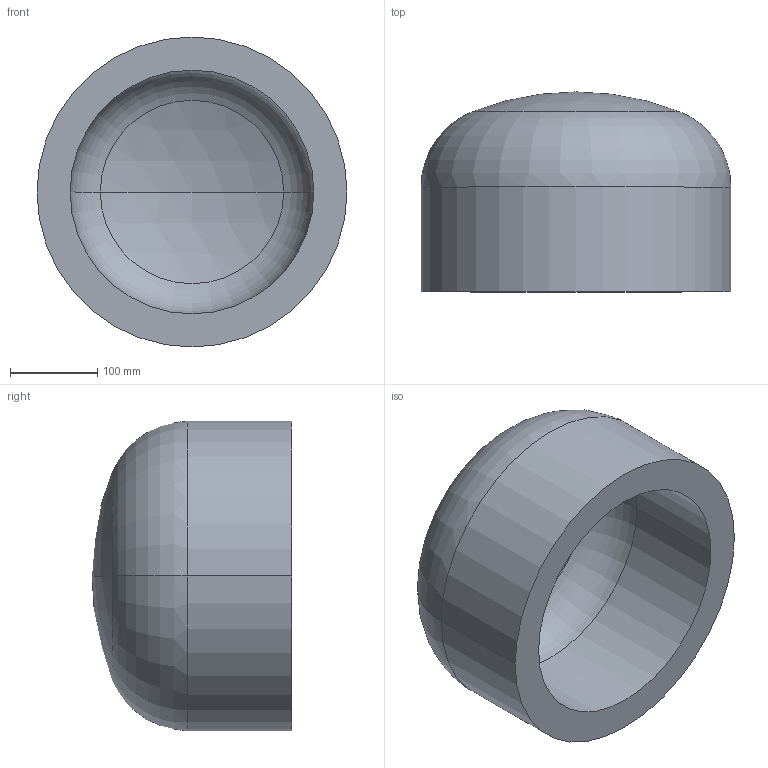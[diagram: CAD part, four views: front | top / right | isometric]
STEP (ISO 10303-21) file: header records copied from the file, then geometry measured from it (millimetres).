
FILE_DESCRIPTION (( 'STEP AP203' ), '1' );
FILE_NAME ('DIN 28013 Korbbogenform_-_Boden DIN 28013 - 355,6 x 120 - I - s=38.step', '2016-07-01T07:47:59', ( '' ), ( '' ), 'SwSTEP 2.0', 'SolidWorks 2013', '' );
FILE_SCHEMA (( 'CONFIG_CONTROL_DESIGN' ));
Length unit declared in the file: millimetre
Products named in the file (1): DIN 28013 Korbbogenform_-_Boden DIN 28013 - 355,6 x 120 - I - s=38
Bounding box: 355.6 x 229.28 x 355.6 mm (x, y, z)
Volume: 9136522 mm3; surface area: 521809.1 mm2
Topology: 1 solids, 1 shells, 13 faces, 24 edges, 14 vertices
Faces by surface type: torus 4, cylinder 4, sphere 4, plane 1
Entity records: 407 total; most frequent: DIRECTION 72, CARTESIAN_POINT 52, ORIENTED_EDGE 48, AXIS2_PLACEMENT_3D 34, EDGE_CURVE 24, CIRCLE 20, EDGE_LOOP 14, VERTEX_POINT 14
